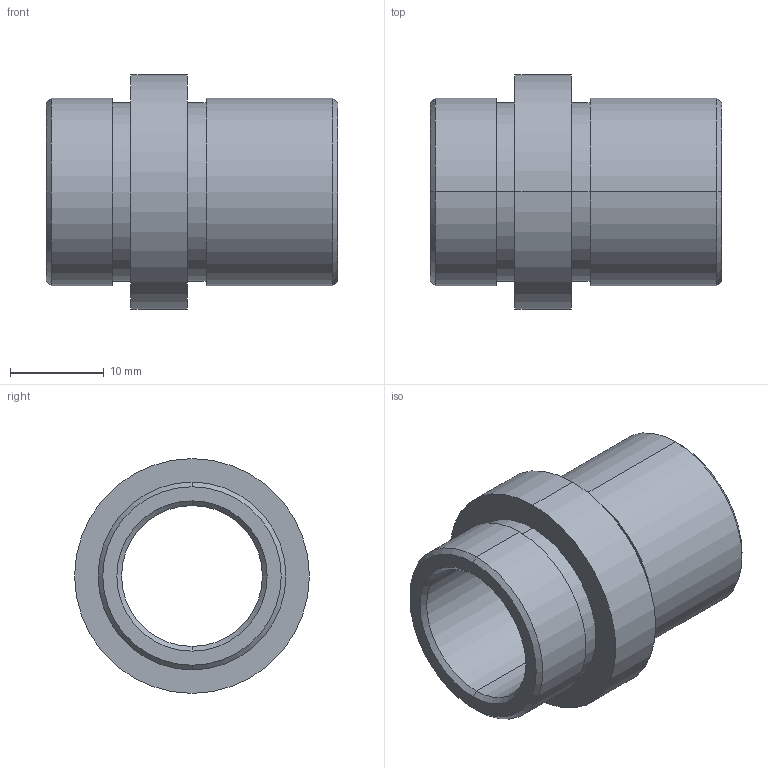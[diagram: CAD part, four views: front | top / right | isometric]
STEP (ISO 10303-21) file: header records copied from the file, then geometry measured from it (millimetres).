
FILE_DESCRIPTION( ( 'STEP AP203' ), '1' );
FILE_NAME( 'C:/Projects/D21 - 15x22.step', '2002-12-31T22:32:03', ( ' ' ), ( ' ' ), 'XStep 1.0', ' ', ' ' );
FILE_SCHEMA( ( 'CONFIG_CONTROL_DESIGN' ) );
Length unit declared in the file: metre
Products named in the file (1): 1
Bounding box: 31 x 25 x 25 mm (x, y, z)
Volume: 5171.1 mm3; surface area: 4176.7 mm2
Topology: 1 solids, 1 shells, 26 faces, 52 edges, 32 vertices
Faces by surface type: revolution 20, bspline 6
Entity records: 773 total; most frequent: CARTESIAN_POINT 169, DIRECTION 106, ORIENTED_EDGE 104, EDGE_CURVE 52, AXIS2_PLACEMENT_3D 33, EDGE_LOOP 32, VERTEX_POINT 32, CIRCLE 32
